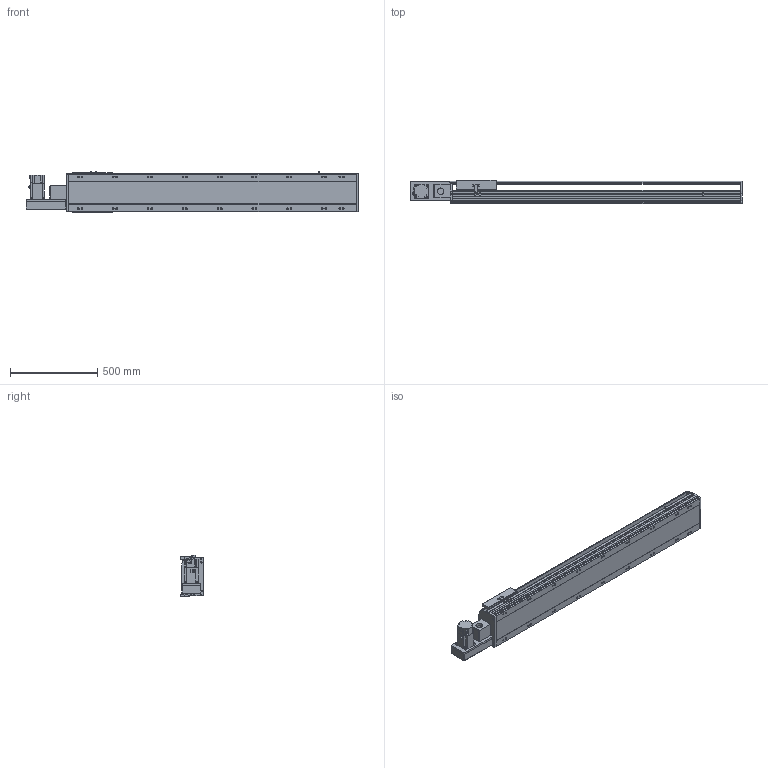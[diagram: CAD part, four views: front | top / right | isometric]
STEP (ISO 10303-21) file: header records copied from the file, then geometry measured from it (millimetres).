
FILE_DESCRIPTION(/* description */ ('STEP AP214'),/* implementation_level */ '2;1');
FILE_NAME(/* name */ 'PBS220-P40-S1300-L-T75-C1-N(0)',/* time_stamp */ '2022-06-11T09:56:04+02:00',/* author */ ('License CC BY-ND 4.0'),/* organization */ ('CADENAS'),/* preprocessor_version */ 'ST-DEVELOPER v18.102',/* originating_system */ 'PARTsolutions',/* authorisation */ ' ');
FILE_SCHEMA (('AUTOMOTIVE_DESIGN {1 0 10303 214 3 1 1}'));
Length unit declared in the file: millimetre
Products named in the file (7): PBS220-P40-S1300-L-T75-C1-N(0); PBS220_sensor; PBS220_plant; PBS220_sliser; T75-p1; PBS220T-L_motors; PBS220-S1300()_body
Assembly tree (8 placements, depth 2):
  PBS220-P40-S1300-L-T75-C1-N(0)
    PBS220_sensor  x3
    PBS220_plant
    PBS220_sliser
    T75-p1
    PBS220T-L_motors
    PBS220-S1300()_body
Bounding box: 1906 x 134 x 238.5 mm (x, y, z)
Volume: 25495714.9 mm3; surface area: 2444718 mm2
Topology: 8 solids, 8 shells, 926 faces, 2424 edges, 1576 vertices
Faces by surface type: plane 602, cylinder 282, cone 42
Full cylindrical faces by diameter (mm): 2.013 x4, 4.5 x14, 4.917 x4, 6 x7, 6.647 x8, 8 x10, 8.376 x18, 8.5 x18, 10 x6, 14 x18, 38 x2, 40 x1, 70 x1
Entity records: 25941 total; most frequent: CARTESIAN_POINT 4558, DIRECTION 4509, ORIENTED_EDGE 4142, EDGE_CURVE 2071, AXIS2_PLACEMENT_3D 1581, VERTEX_POINT 1432, LINE 1347, VECTOR 1347
